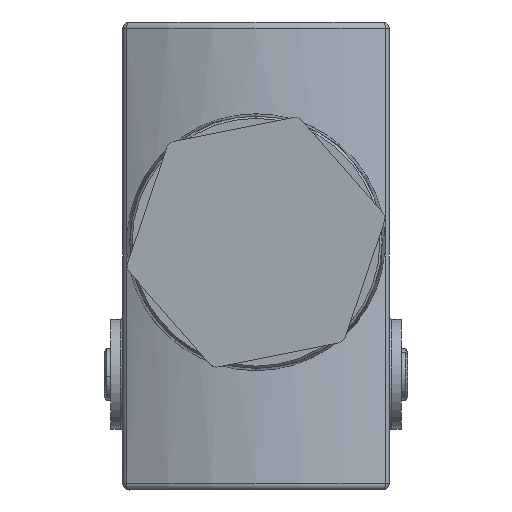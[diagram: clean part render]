
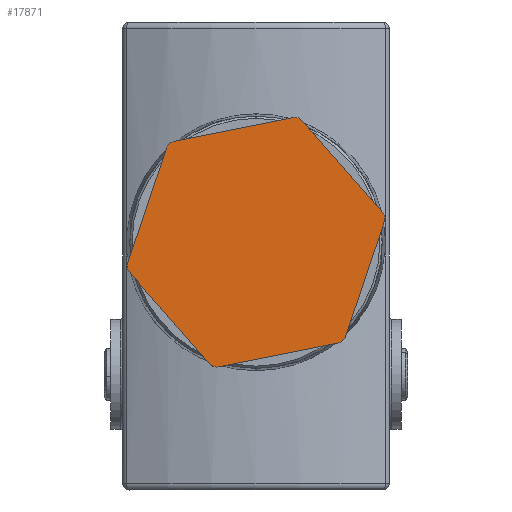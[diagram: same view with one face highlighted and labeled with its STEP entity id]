
A CAD part, front view. The second image highlights one B-rep face of the part: STEP entity #17871.
In plain terms, the highlighted planar face has unit normal (0, -1, 0).
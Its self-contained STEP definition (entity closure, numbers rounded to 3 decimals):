
#285=PLANE('',#19990);
#1733=LINE('',#36377,#3695);
#1734=LINE('',#36381,#3696);
#1735=LINE('',#36385,#3697);
#1736=LINE('',#36389,#3698);
#1737=LINE('',#36393,#3699);
#1738=LINE('',#36397,#3700);
#3695=VECTOR('',#22037,28.29);
#3696=VECTOR('',#22040,28.29);
#3697=VECTOR('',#22043,28.29);
#3698=VECTOR('',#22046,28.29);
#3699=VECTOR('',#22049,28.29);
#3700=VECTOR('',#22052,28.29);
#6083=FACE_OUTER_BOUND('',#6713,.T.);
#6713=EDGE_LOOP('',(#15322,#15323,#15324,#15325,#15326,#15327,#15328,#15329,
#15330,#15331,#15332,#15333));
#7471=CIRCLE('',#19991,2.);
#7472=CIRCLE('',#19992,2.);
#7473=CIRCLE('',#19993,2.);
#7474=CIRCLE('',#19994,2.);
#7475=CIRCLE('',#19995,2.);
#7476=CIRCLE('',#19996,2.);
#8748=VERTEX_POINT('',#36375);
#8749=VERTEX_POINT('',#36376);
#8750=VERTEX_POINT('',#36378);
#8751=VERTEX_POINT('',#36380);
#8752=VERTEX_POINT('',#36382);
#8753=VERTEX_POINT('',#36384);
#8754=VERTEX_POINT('',#36386);
#8755=VERTEX_POINT('',#36388);
#8756=VERTEX_POINT('',#36390);
#8757=VERTEX_POINT('',#36392);
#8758=VERTEX_POINT('',#36394);
#8759=VERTEX_POINT('',#36396);
#12035=EDGE_CURVE('',#8748,#8749,#1733,.T.);
#12036=EDGE_CURVE('',#8749,#8750,#7471,.T.);
#12037=EDGE_CURVE('',#8750,#8751,#1734,.T.);
#12038=EDGE_CURVE('',#8751,#8752,#7472,.T.);
#12039=EDGE_CURVE('',#8752,#8753,#1735,.T.);
#12040=EDGE_CURVE('',#8753,#8754,#7473,.T.);
#12041=EDGE_CURVE('',#8754,#8755,#1736,.T.);
#12042=EDGE_CURVE('',#8755,#8756,#7474,.T.);
#12043=EDGE_CURVE('',#8756,#8757,#1737,.T.);
#12044=EDGE_CURVE('',#8757,#8758,#7475,.T.);
#12045=EDGE_CURVE('',#8758,#8759,#1738,.T.);
#12046=EDGE_CURVE('',#8759,#8748,#7476,.T.);
#15322=ORIENTED_EDGE('',*,*,#12035,.T.);
#15323=ORIENTED_EDGE('',*,*,#12036,.T.);
#15324=ORIENTED_EDGE('',*,*,#12037,.T.);
#15325=ORIENTED_EDGE('',*,*,#12038,.T.);
#15326=ORIENTED_EDGE('',*,*,#12039,.T.);
#15327=ORIENTED_EDGE('',*,*,#12040,.T.);
#15328=ORIENTED_EDGE('',*,*,#12041,.T.);
#15329=ORIENTED_EDGE('',*,*,#12042,.T.);
#15330=ORIENTED_EDGE('',*,*,#12043,.T.);
#15331=ORIENTED_EDGE('',*,*,#12044,.T.);
#15332=ORIENTED_EDGE('',*,*,#12045,.T.);
#15333=ORIENTED_EDGE('',*,*,#12046,.T.);
#17871=ADVANCED_FACE('',(#6083),#285,.T.);
#19990=AXIS2_PLACEMENT_3D('',#36374,#22035,#22036);
#19991=AXIS2_PLACEMENT_3D('',#36379,#22038,#22039);
#19992=AXIS2_PLACEMENT_3D('',#36383,#22041,#22042);
#19993=AXIS2_PLACEMENT_3D('',#36387,#22044,#22045);
#19994=AXIS2_PLACEMENT_3D('',#36391,#22047,#22048);
#19995=AXIS2_PLACEMENT_3D('',#36395,#22050,#22051);
#19996=AXIS2_PLACEMENT_3D('',#36398,#22053,#22054);
#22035=DIRECTION('center_axis',(0.,-1.,0.));
#22036=DIRECTION('ref_axis',(0.,0.,-1.));
#22037=DIRECTION('',(0.66,0.,-0.751));
#22038=DIRECTION('center_axis',(0.,-1.,0.));
#22039=DIRECTION('ref_axis',(-0.751,0.,-0.66));
#22040=DIRECTION('',(0.981,0.,0.196));
#22041=DIRECTION('center_axis',(0.,-1.,0.));
#22042=DIRECTION('ref_axis',(0.196,0.,-0.981));
#22043=DIRECTION('',(0.321,0.,0.947));
#22044=DIRECTION('center_axis',(0.,-1.,0.));
#22045=DIRECTION('ref_axis',(0.947,0.,-0.321));
#22046=DIRECTION('',(-0.66,0.,0.751));
#22047=DIRECTION('center_axis',(0.,-1.,0.));
#22048=DIRECTION('ref_axis',(0.751,0.,0.66));
#22049=DIRECTION('',(-0.981,0.,-0.196));
#22050=DIRECTION('center_axis',(0.,-1.,0.));
#22051=DIRECTION('ref_axis',(-0.196,0.,0.981));
#22052=DIRECTION('',(-0.321,0.,-0.947));
#22053=DIRECTION('center_axis',(0.,-1.,0.));
#22054=DIRECTION('ref_axis',(-0.947,0.,0.321));
#36374=CARTESIAN_POINT('Origin',(30.126,-85.509,5.653));
#36375=CARTESIAN_POINT('',(-29.245,-85.509,-6.861));
#36376=CARTESIAN_POINT('',(-10.575,-85.509,-28.116));
#36377=CARTESIAN_POINT('',(-29.245,-85.509,-6.861));
#36378=CARTESIAN_POINT('',(-8.681,-85.509,-28.757));
#36379=CARTESIAN_POINT('Origin',(-9.072,-85.509,-26.796));
#36380=CARTESIAN_POINT('',(19.061,-85.509,-23.216));
#36381=CARTESIAN_POINT('',(-8.681,-85.509,-28.757));
#36382=CARTESIAN_POINT('',(20.564,-85.509,-21.896));
#36383=CARTESIAN_POINT('Origin',(18.67,-85.509,-21.255));
#36384=CARTESIAN_POINT('',(29.637,-85.509,4.9));
#36385=CARTESIAN_POINT('',(20.564,-85.509,-21.896));
#36386=CARTESIAN_POINT('',(29.245,-85.509,6.861));
#36387=CARTESIAN_POINT('Origin',(27.742,-85.509,5.541));
#36388=CARTESIAN_POINT('',(10.575,-85.509,28.116));
#36389=CARTESIAN_POINT('',(29.245,-85.509,6.861));
#36390=CARTESIAN_POINT('',(8.681,-85.509,28.757));
#36391=CARTESIAN_POINT('Origin',(9.072,-85.509,26.796));
#36392=CARTESIAN_POINT('',(-19.061,-85.509,23.216));
#36393=CARTESIAN_POINT('',(8.681,-85.509,28.757));
#36394=CARTESIAN_POINT('',(-20.564,-85.509,21.896));
#36395=CARTESIAN_POINT('Origin',(-18.67,-85.509,21.255));
#36396=CARTESIAN_POINT('',(-29.637,-85.509,-4.9));
#36397=CARTESIAN_POINT('',(-20.564,-85.509,21.896));
#36398=CARTESIAN_POINT('Origin',(-27.742,-85.509,-5.541));
